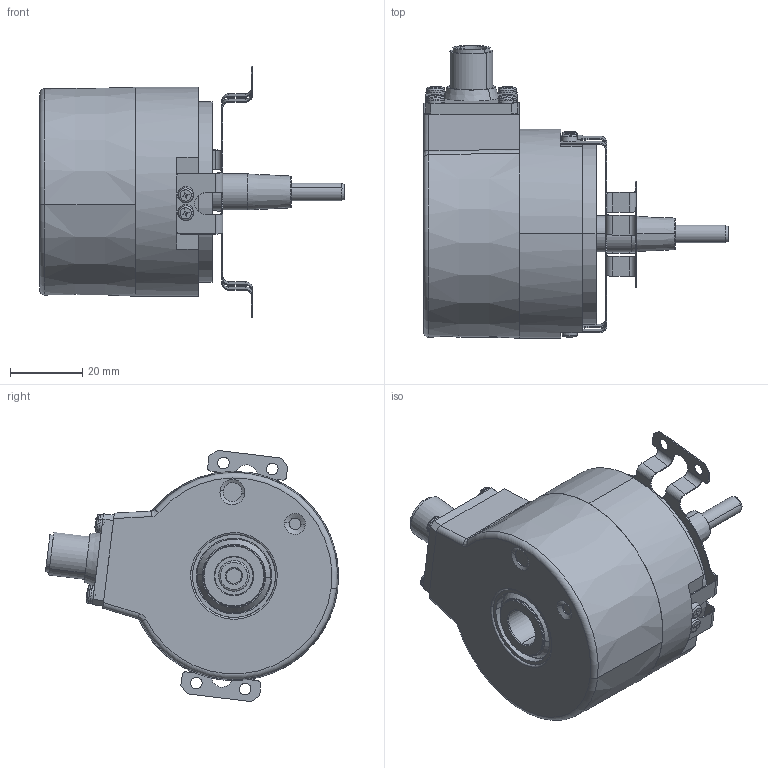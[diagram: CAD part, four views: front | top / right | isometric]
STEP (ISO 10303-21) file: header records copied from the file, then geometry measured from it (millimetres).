
FILE_DESCRIPTION (( 'STEP AP203' ), '1' );
FILE_NAME ('8.5834FSX.BKX6.XXXX.STEP', '2013-08-01T13:48:22', ( 'Admin' ), ( 'Fritz Kübler GmbH' ), 'SwSTEP 2.0', 'SolidWorks 2012', '' );
FILE_SCHEMA (( 'CONFIG_CONTROL_DESIGN' ));
Length unit declared in the file: millimetre
Products named in the file (1): 8.5834FSX.BKX6.XXXX
Bounding box: 84.5 x 81.25 x 69.69 mm (x, y, z)
Volume: 82201.2 mm3; surface area: 49284.3 mm2
Topology: 20 solids, 20 shells, 1170 faces, 2859 edges, 1732 vertices
Faces by surface type: plane 409, cylinder 356, cone 215, torus 102, sphere 52, bspline 36
Entity records: 35883 total; most frequent: CARTESIAN_POINT 8586, DIRECTION 6021, ORIENTED_EDGE 5474, EDGE_CURVE 2737, AXIS2_PLACEMENT_3D 2414, VERTEX_POINT 1686, EDGE_LOOP 1315, CIRCLE 1279
